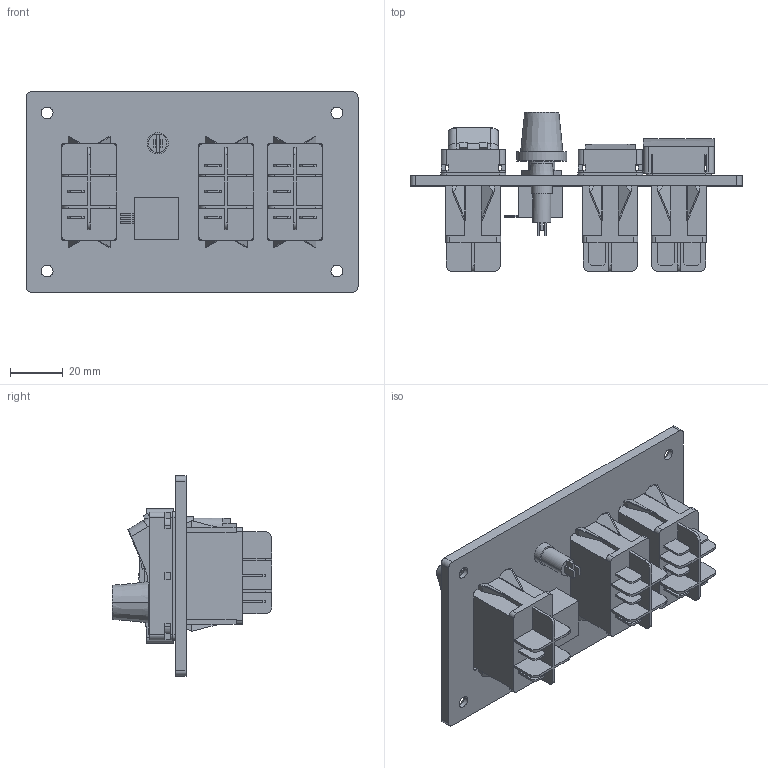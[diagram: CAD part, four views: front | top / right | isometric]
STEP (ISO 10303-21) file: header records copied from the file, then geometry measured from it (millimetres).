
FILE_DESCRIPTION((''),'2;1');
FILE_NAME('BACKUP_PANEL_164000-30010_ASM','2015-07-09T',('IB46307'),(''),'PRO/ENGINEER BY PARAMETRIC TECHNOLOGY CORPORATION, 2007450','PRO/ENGINEER BY PARAMETRIC TECHNOLOGY CORPORATION, 2007450','');
FILE_SCHEMA(('CONFIG_CONTROL_DESIGN'));
Length unit declared in the file: millimetre
Products named in the file (1): BACKUP_PANEL_164000-30010_ASM
Bounding box: 126 x 60.52 x 76 mm (x, y, z)
Volume: 132163.1 mm3; surface area: 57736 mm2
Topology: 1 solids, 3 shells, 679 faces, 2009 edges, 1319 vertices
Faces by surface type: plane 516, cylinder 141, cone 14, extrusion 4, torus 2, sphere 2
Entity records: 22748 total; most frequent: CARTESIAN_POINT 4200, ORIENTED_EDGE 3994, DIRECTION 3657, EDGE_CURVE 2007, VECTOR 1661, LINE 1657, VERTEX_POINT 1319, AXIS2_PLACEMENT_3D 998
